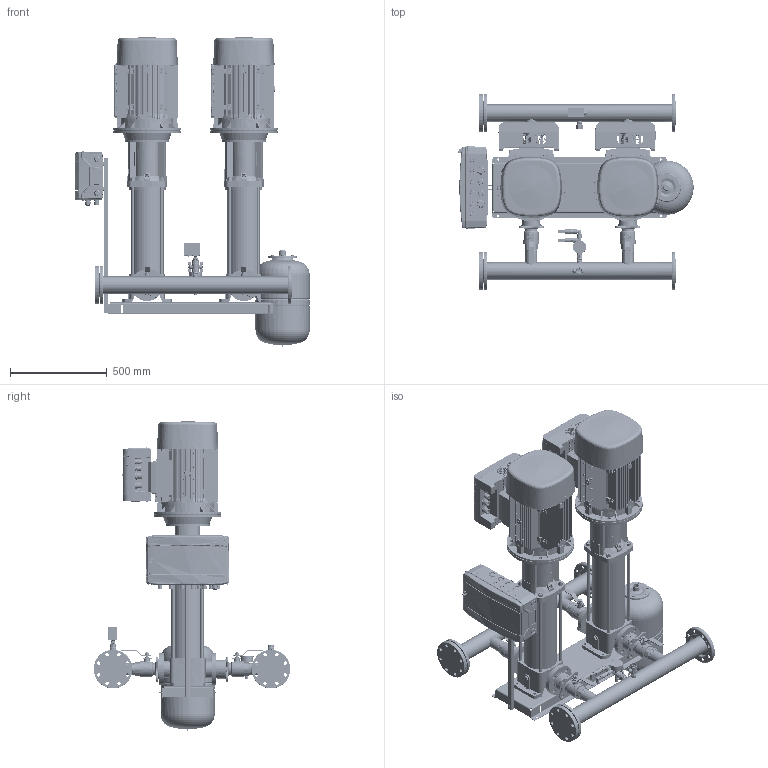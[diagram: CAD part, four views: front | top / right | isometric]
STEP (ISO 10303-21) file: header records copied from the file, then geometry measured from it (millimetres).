
FILE_DESCRIPTION(('CATIA V5 STEP Exchange','CAx-IF Rec.Pracs.--- Model Styling and Organization---1.4--- 2014-01-23','CAx-IF Rec.Pracs.---3D Tessellated Data Validation Properties---0.5---2014-09-14'),'2;1');
FILE_NAME('C:\Users\78432\YandexDisk\Drawings and 3D\3D Hydro Booster\Hydro-ME 3D\Hydro Models\Hydro ME 2 CRV15_20-xx (DIN BV)\Hydro ME 2 CRVE20-10 (DIN BV).stp','2023-09-20T12:49:28+00:00',('none'),('none'),'CATIA Version 5-6 Release 2019 SP6','CATIA V5 STEP AP242 v1','none');
FILE_SCHEMA(('AP242_MANAGED_MODEL_BASED_3D_ENGINEERING_MIM_LF {1 0 10303 442 1 1 4}'));
Length unit declared in the file: millimetre
Products named in the file (44): Hydro ME 2 CRVE20-10 (DIN BV); 92051009; CRV20-10 set (DIN bv); CRV 20-10_A_DIN_11kW; Base; Sleeve; Pumphead; Staybolt.1; Staybolt.2; Staybolt.3; Staybolt.4; Plug; AirVent; Motor; 00id2584; 92802785; 99273085; SAJ PDH30 11-18,5kW; 97941446; 405801; 91040270; 91070073; 99110037; 97941483; 00GW4890; Holder and CP 18mod; 92878909; Control ME (18mod); 2 sensors + manometer cpl.; manometr 16 bar; RPD-I-G1_2; 9021-01; 2070 1/2-1/2; _2020 1/2-1/2; 98594078; Tank 24L cpl.; DN20_FF_BF_47.300.20; WAV-24(D140 1''); 9021-03; Relay cpl.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
Assembly tree (54 placements, depth 4):
  Hydro ME 2 CRVE20-10 (DIN BV)
    92051009
    CRV20-10 set (DIN bv)  x2
      CRV 20-10_A_DIN_11kW
        Base
        Sleeve
        Pumphead
        Staybolt.1
        Staybolt.2
        Staybolt.3
        Staybolt.4
        Plug
        AirVent
        Motor
      00id2584
      92802785
      99273085
      SAJ PDH30 11-18,5kW
    97941446  x2
      405801
      91040270
      91070073
      99110037
      97941483
    00GW4890  x2
    Holder and CP 18mod
      92878909
      Control ME (18mod)
    2 sensors + manometer cpl.
      manometr 16 bar
      RPD-I-G1_2  x2
      9021-01
      2070 1/2-1/2
      _2020 1/2-1/2
      98594078
    Tank 24L cpl.
      DN20_FF_BF_47.300.20
      9021-03
    Relay cpl.
      Relay RD-2R
      DN20_FF_BF_47.300.20
      2530 3/4-1/2
      _2530 1/2-1/4
    91078139
  WAV-24(D140 1'')
Bounding box: 1216.82 x 1016.5 x 1599.55 mm (x, y, z)
Volume: 158131601.8 mm3; surface area: 12982362.5 mm2
Topology: 208 solids, 3168 shells, 31887 faces, 109640 edges, 82024 vertices
Faces by surface type: plane 14820, cylinder 7573, bspline 7334, cone 1429, torus 494, sphere 197, extrusion 40
Entity records: 851099 total; most frequent: CARTESIAN_POINT 412032, ORIENTED_EDGE 108973, EDGE_CURVE 59057, DIRECTION 51643, VERTEX_POINT 42996, VECTOR 27906, LINE 27886, B_SPLINE_CURVE_WITH_KNOTS 22263
